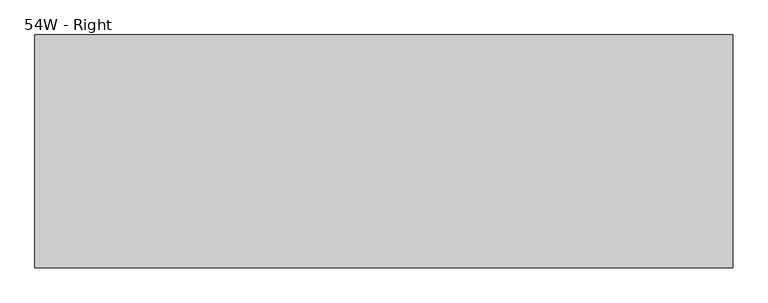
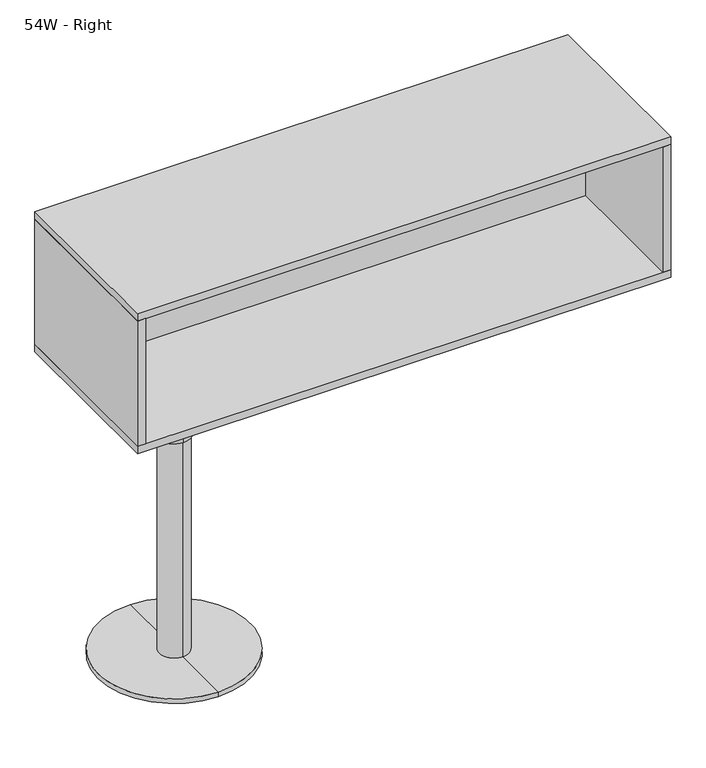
"""IFC4 building model written with IfcOpenShell, lengths in millimetres: furniture geometry, Steelcase - Duo Storage - For Use with Answer Junction - Tall Storage with Leg - Individual : 54W - Right."""

from ifc_helpers import new_model, si_unit, frame, origin, place, context, project, spatial, polyline, circle_curve, outline, extrude, source, transform, mapped, element, save
from ifc_brep_helpers import plane_surface, cylinder_surface, advanced_brep


def furniture_54w_right_393ddbf9(model_context):
    return source(origin(), model_context, "Body", "SolidModel", [
        extrude(outline(polyline([(1351.2797287, 115.3159264), (20.32, 115.3159264), (20.32, 137.1599419), (1351.2797287, 137.1599419), (1351.2797287, 115.3159264)])), frame((0.0, 0.0, 779.2719806), z_axis=(0.0, 0.0, 1.0), x_axis=(1.0, 0.0, 0.0)), (0.0, 0.0, 1.0), 340.3600194),
        advanced_brep(
        [(226.0597287, 196.1389534, 0.0), (226.0597287, -196.1389534, 0.0), (226.0597287, -196.1389534, 12.7), (226.0597287, 196.1389534, 12.7), (226.0597287, 0.0, 0.0), (226.0597287, 41.4195882, 758.952), (226.0597287, -41.4195882, 758.952), (226.0597287, 0.0, 758.952), (226.0597287, 41.4195882, 596.9), (226.0597287, -41.4195882, 596.9), (226.0597287, 38.1, 596.9), (226.0597287, -38.1, 596.9), (226.0597287, 38.1, 12.7), (226.0597287, -38.1, 12.7)],
        [
            (0, 1, circle_curve(frame((226.0597287, 0.0, 0.0), z_axis=(0.0, 0.0, 1.0), x_axis=(0.0, -1.0, 0.0)), 196.1389534)),
            (1, 2),
            (2, 3, circle_curve(frame((226.0597287, 0.0, 12.7), z_axis=(0.0, 0.0, -1.0), x_axis=(0.0, -1.0, 0.0)), 196.1389534)),
            (3, 0),
            (1, 0, circle_curve(frame((226.0597287, 0.0, 0.0), z_axis=(0.0, 0.0, 1.0), x_axis=(0.0, -1.0, 0.0)), 196.1389534)),
            (3, 2, circle_curve(frame((226.0597287, 0.0, 12.7), z_axis=(0.0, 0.0, -1.0), x_axis=(0.0, -1.0, 0.0)), 196.1389534)),
            (4, 1),
            (0, 4),
            (5, 6, circle_curve(frame((226.0597287, 0.0, 758.952), z_axis=(0.0, 0.0, 1.0), x_axis=(0.0, -1.0, 0.0)), 41.4195882)),
            (6, 7),
            (7, 5),
            (6, 5, circle_curve(frame((226.0597287, 0.0, 758.952), z_axis=(0.0, 0.0, 1.0), x_axis=(0.0, -1.0, 0.0)), 41.4195882)),
            (8, 9, circle_curve(frame((226.0597287, 0.0, 596.9), z_axis=(0.0, 0.0, 1.0), x_axis=(0.0, -1.0, 0.0)), 41.4195882)),
            (9, 6),
            (5, 8),
            (9, 8, circle_curve(frame((226.0597287, 0.0, 596.9), z_axis=(0.0, 0.0, 1.0), x_axis=(0.0, -1.0, 0.0)), 41.4195882)),
            (10, 11, circle_curve(frame((226.0597287, 0.0, 596.9), z_axis=(0.0, 0.0, 1.0), x_axis=(0.0, -1.0, 0.0)), 38.1)),
            (11, 9),
            (8, 10),
            (11, 10, circle_curve(frame((226.0597287, 0.0, 596.9), z_axis=(0.0, 0.0, 1.0), x_axis=(0.0, -1.0, 0.0)), 38.1)),
            (12, 13, circle_curve(frame((226.0597287, 0.0, 12.7), z_axis=(0.0, 0.0, 1.0), x_axis=(0.0, -1.0, 0.0)), 38.1)),
            (13, 11),
            (10, 12),
            (13, 12, circle_curve(frame((226.0597287, 0.0, 12.7), z_axis=(0.0, 0.0, 1.0), x_axis=(0.0, -1.0, 0.0)), 38.1)),
            (2, 13),
            (12, 3),
        ],
        [
            cylinder_surface(frame((226.0597287, 0.0, 581.025), z_axis=(0.0, 0.0, -1.0), x_axis=(0.0, -1.0, 0.0)), 196.1389534),
            plane_surface(frame((226.0597287, 0.0, 0.0), z_axis=(0.0, 0.0, -1.0), x_axis=(0.0, -1.0, 0.0))),
            plane_surface(frame((226.0597287, 0.0, 758.952), z_axis=(0.0, 0.0, 1.0), x_axis=(0.0, -1.0, 0.0))),
            cylinder_surface(frame((226.0597287, 0.0, 581.025), z_axis=(0.0, 0.0, -1.0), x_axis=(0.0, -1.0, 0.0)), 41.4195882),
            plane_surface(frame((226.0597287, 0.0, 596.9), z_axis=(0.0, 0.0, -1.0), x_axis=(0.0, -1.0, 0.0))),
            cylinder_surface(frame((226.0597287, 0.0, 581.025), z_axis=(0.0, 0.0, -1.0), x_axis=(0.0, -1.0, 0.0)), 38.1),
            plane_surface(frame((226.0597287, 0.0, 12.7), z_axis=(0.0, 0.0, 1.0), x_axis=(0.0, -1.0, 0.0))),
        ],
        [
            (0, [[1, 2, 3, 4]]),
            (0, [[5, -4, 6, -2]]),
            (1, [[7, -1, 8]]),
            (1, [[-8, -5, -7]]),
            (2, [[9, 10, 11]]),
            (2, [[12, -11, -10]]),
            (3, [[13, 14, -9, 15]]),
            (3, [[16, -15, -12, -14]]),
            (4, [[17, 18, -13, 19]]),
            (4, [[20, -19, -16, -18]]),
            (5, [[21, 22, -17, 23]]),
            (5, [[24, -23, -20, -22]]),
            (6, [[-3, 25, -21, 26]]),
            (6, [[-6, -26, -24, -25]]),
        ],
    ),
        extrude(outline(polyline([(1371.6, 228.6), (1371.6, -228.6), (1351.2797287, -228.6), (1351.2797287, 228.6), (1371.6, 228.6)])), frame((0.0, 0.0, 779.2719806), z_axis=(0.0, 0.0, 1.0), x_axis=(1.0, 0.0, 0.0)), (0.0, 0.0, 1.0), 340.3600194),
        extrude(outline(polyline([(20.32, 228.6), (20.32, -228.6), (0.0, -228.6), (0.0, 228.6), (20.32, 228.6)])), frame((0.0, 0.0, 779.2719806), z_axis=(0.0, 0.0, 1.0), x_axis=(1.0, 0.0, 0.0)), (0.0, 0.0, 1.0), 340.3600194),
        extrude(outline(polyline([(1371.6, 228.6), (1371.6, -228.6), (0.0, -228.6), (0.0, 228.6), (1371.6, 228.6)])), frame((0.0, 0.0, 1119.632), z_axis=(0.0, 0.0, 1.0), x_axis=(1.0, 0.0, 0.0)), (0.0, 0.0, 1.0), 20.32),
        extrude(outline(polyline([(1371.6, 228.6), (1371.6, -228.6), (0.0, -228.6), (0.0, 228.6), (1371.6, 228.6)])), frame((0.0, 0.0, 758.952), z_axis=(0.0, 0.0, 1.0), x_axis=(1.0, 0.0, 0.0)), (0.0, 0.0, 1.0), 20.3199806),
    ])


if __name__ == "__main__":
    model = new_model("IFC4")
    model_context = context("Model", 3, world=origin())
    ifc_project = project(units=[si_unit("LENGTHUNIT", "METRE", prefix="MILLI")], contexts=[model_context])
    site = spatial("IfcSite", under=ifc_project)
    building = spatial("IfcBuilding", under=site)
    placement = place(None, origin())
    furniture_54w_right_shape = furniture_54w_right_393ddbf9(model_context)
    element("IfcFurniture", 1, ObjectType="Steelcase - Duo Storage - For Use with Answer Junction - Tall Storage with Leg - Individual : 54W - Right", at=placement, inside=building, context=model_context, shape_type="MappedRepresentation", body=[
        mapped(furniture_54w_right_shape, transform((0.0, 0.0, 0.0), x_axis=(1.0, 0.0, 0.0), y_axis=(0.0, 1.0, 0.0), z_axis=(0.0, 0.0, 1.0))),
    ])
    save(model, "model.ifc")
